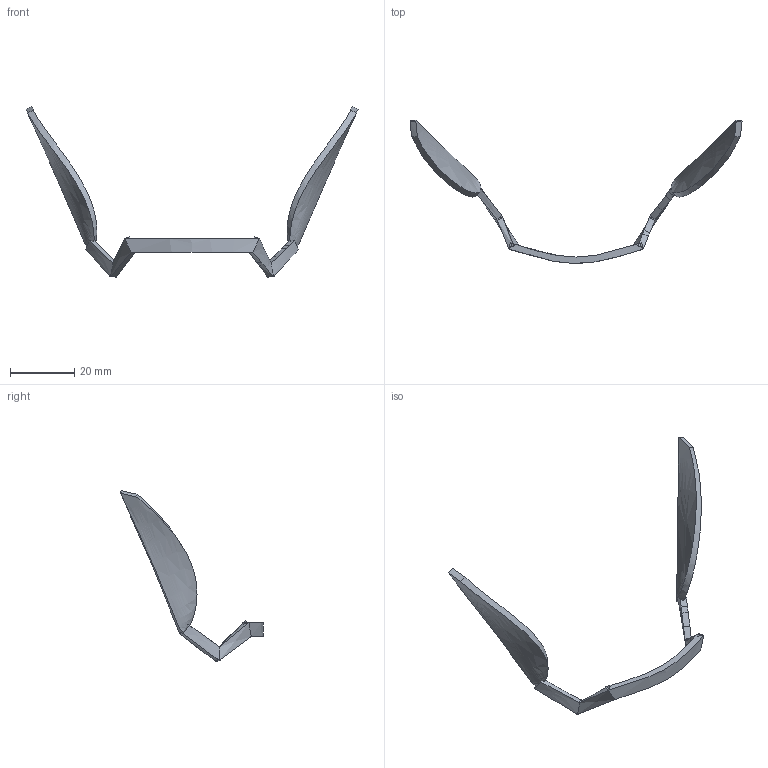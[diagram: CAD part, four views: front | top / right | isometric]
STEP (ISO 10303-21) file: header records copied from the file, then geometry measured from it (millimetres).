
FILE_DESCRIPTION(/* description */ ('STEP AP242','CAx-IF Rec.Pracs.---Representation and Presentation of Product Manufacturing Information (PMI)---4.0---2014-10-13','CAx-IF Rec.Pracs.---3D Tessellated Geometry---0.4---2014-09-14','2;1'),/* implementation_level */ '2;1');
FILE_NAME(/* name */ '6856ab9a8a3a8d47ea07bd73',/* time_stamp */ '2025-06-21T12:54:51Z',/* author */ (''),/* organization */ (''),/* preprocessor_version */ 'ST-DEVELOPER v20',/* originating_system */ 'ONSHAPE BY PTC INC, 1.199',/* authorisation */ ' ');
FILE_SCHEMA (('AP242_MANAGED_MODEL_BASED_3D_ENGINEERING_MIM_LF { 1 0 10303 442 1 1 4 }'));
Length unit declared in the file: metre
Products named in the file (3): Einsatz links schwarz; Einsatz unten schwarz; Einsatz rechts schwarz
Bounding box: 103.31 x 44.43 x 53.07 mm (x, y, z)
Volume: 2519.3 mm3; surface area: 3355.4 mm2
Topology: 3 solids, 3 shells, 102 faces, 233 edges, 137 vertices
Faces by surface type: bspline 92, cylinder 8, plane 2
Entity records: 15711 total; most frequent: CARTESIAN_POINT 14101, ORIENTED_EDGE 462, EDGE_CURVE 231, B_SPLINE_CURVE_WITH_KNOTS 217, VERTEX_POINT 135, EDGE_LOOP 102, FACE_BOUND 102, ADVANCED_FACE 102
